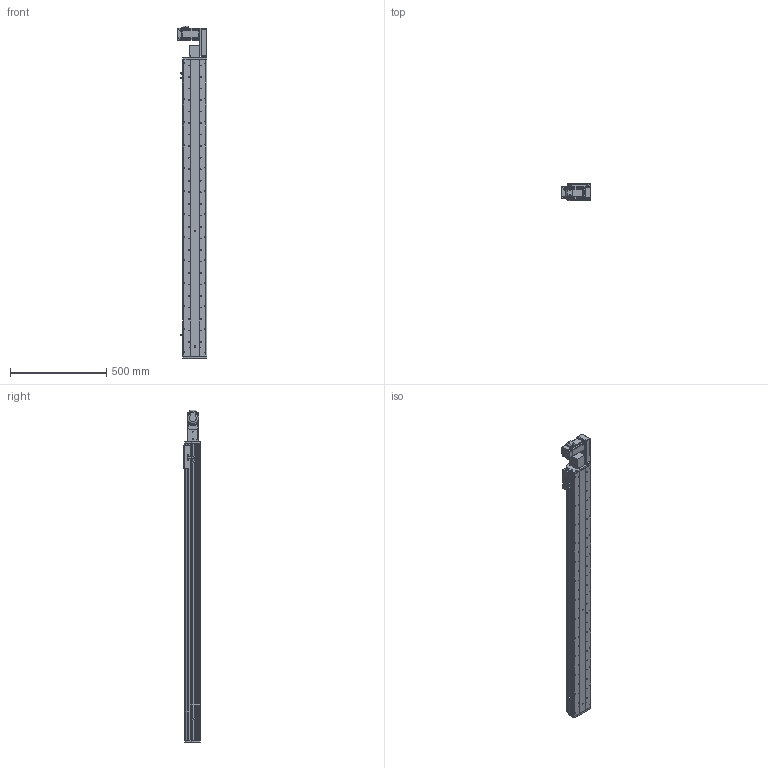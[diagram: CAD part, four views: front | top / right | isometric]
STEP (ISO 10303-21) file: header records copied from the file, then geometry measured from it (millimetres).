
FILE_DESCRIPTION (( 'STEP AP214' ), '1' );
FILE_NAME ('KSD125B-S1350-MLB-CM.STEP', '2017-10-21T02:02:32', ( '微软用户' ), ( '微软中国' ), 'SwSTEP 2.0', 'SolidWorks 2014', '' );
FILE_SCHEMA (( 'AUTOMOTIVE_DESIGN' ));
Length unit declared in the file: millimetre
Products named in the file (17): KSD125B-S1350-MLB-CM; 悵誘欶奻狟殏; HTPA30S3M150_A_H6_a佪裝蚚; HTPA30S3M150_A_H6_a萇儂蚚; 100宽马达安装板连板上下折丝杆同步带; 100宽马达安装板同步带左; KSD125模组1350行程同步带-防尘盖; 125模组1350行程同步带-底板; MHMD042G1CA_2_03; KSD125模组同步带-防撞垫2; 覜茼え68遵圉猾敕; U倰嫖萇假蚾璃; U倰嫖萇EEㄜSX672; KSD125模组同步带-防撞垫1; 前端板-125宽模组同步带; 125模组同步带-尾端板1; KSD125模组同步带-滑动座1
Assembly tree (20 placements, depth 2):
  KSD125B-S1350-MLB-CM
    KSD125模组同步带-滑动座1
    125模组同步带-尾端板1
    前端板-125宽模组同步带
    KSD125模组同步带-防撞垫1
    U倰嫖萇EEㄜSX672  x3
    U倰嫖萇假蚾璃  x3
    覜茼え68遵圉猾敕
    KSD125模组同步带-防撞垫2
    MHMD042G1CA_2_03
    125模组1350行程同步带-底板
    KSD125模组1350行程同步带-防尘盖
    100宽马达安装板同步带左
    100宽马达安装板连板上下折丝杆同步带
    HTPA30S3M150_A_H6_a萇儂蚚
    HTPA30S3M150_A_H6_a佪裝蚚
    悵誘欶奻狟殏
Bounding box: 155 x 86 x 1728 mm (x, y, z)
Volume: 4859945.7 mm3; surface area: 1614947.4 mm2
Topology: 19 solids, 22 shells, 2365 faces, 6859 edges, 4534 vertices
Faces by surface type: cylinder 1504, plane 734, cone 105, bspline 22
Entity records: 84593 total; most frequent: CARTESIAN_POINT 16653, DIRECTION 13140, ORIENTED_EDGE 12238, EDGE_CURVE 6197, AXIS2_PLACEMENT_3D 5097, VERTEX_POINT 4126, CIRCLE 2950, VECTOR 2946
